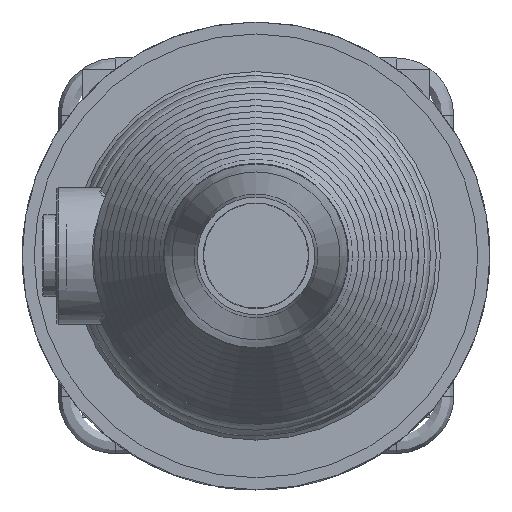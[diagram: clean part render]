
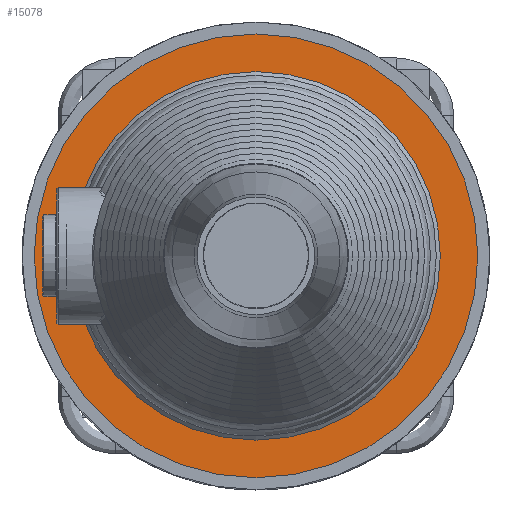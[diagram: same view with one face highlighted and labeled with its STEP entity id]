
A CAD part, left-side view. The second image highlights one B-rep face of the part: STEP entity #15078.
In plain terms, the highlighted conical face has half-angle 90 degrees and reference radius 84.659 mm.
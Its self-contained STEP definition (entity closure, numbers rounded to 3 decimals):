
#3547=FACE_BOUND('',#4730,.T.);
#3777=FACE_OUTER_BOUND('',#4729,.T.);
#4729=EDGE_LOOP('',(#10209));
#4730=EDGE_LOOP('',(#10210));
#5910=CIRCLE('',#16041,76.819);
#5911=CIRCLE('',#16042,92.5);
#6423=VERTEX_POINT('',#20386);
#6424=VERTEX_POINT('',#20388);
#7957=EDGE_CURVE('',#6423,#6423,#5910,.T.);
#7958=EDGE_CURVE('',#6424,#6424,#5911,.T.);
#10209=ORIENTED_EDGE('',*,*,#7957,.T.);
#10210=ORIENTED_EDGE('',*,*,#7958,.F.);
#14714=CONICAL_SURFACE('',#16040,84.659,90.);
#15078=ADVANCED_FACE('',(#3777,#3547),#14714,.F.);
#16040=AXIS2_PLACEMENT_3D('',#20385,#17201,#17202);
#16041=AXIS2_PLACEMENT_3D('',#20387,#17203,#17204);
#16042=AXIS2_PLACEMENT_3D('',#20389,#17205,#17206);
#17201=DIRECTION('center_axis',(-1.,0.,0.));
#17202=DIRECTION('ref_axis',(0.,-1.,0.));
#17203=DIRECTION('center_axis',(1.,0.,0.));
#17204=DIRECTION('ref_axis',(0.,0.,-1.));
#17205=DIRECTION('center_axis',(1.,0.,0.));
#17206=DIRECTION('ref_axis',(0.,0.,-1.));
#20385=CARTESIAN_POINT('Origin',(-191.652,0.,
0.));
#20386=CARTESIAN_POINT('',(-191.652,-76.819,0.));
#20387=CARTESIAN_POINT('Origin',(-191.652,0.,
0.));
#20388=CARTESIAN_POINT('',(-191.652,-92.5,0.));
#20389=CARTESIAN_POINT('Origin',(-191.652,0.,
0.));
